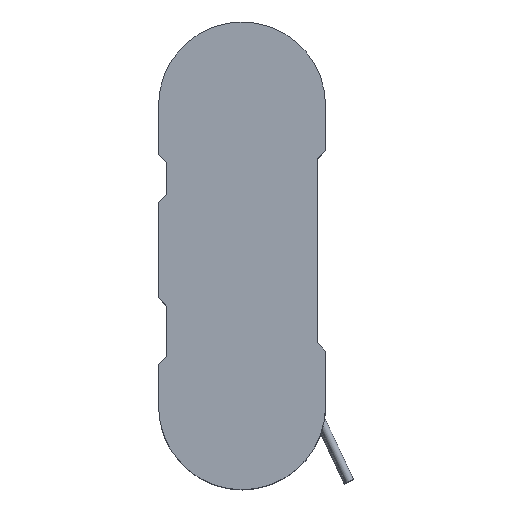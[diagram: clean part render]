
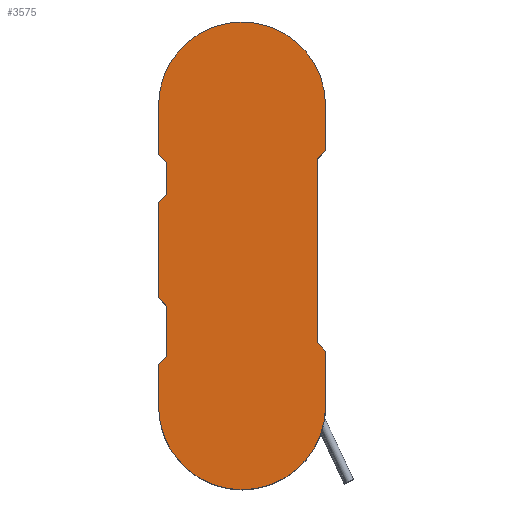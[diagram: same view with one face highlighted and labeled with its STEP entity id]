
A CAD part, top view. The second image highlights one B-rep face of the part: STEP entity #3575.
In plain terms, the highlighted planar face has unit normal (0, 0, 1).
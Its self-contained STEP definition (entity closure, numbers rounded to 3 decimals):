
#5 = DIRECTION ( 'NONE',  ( 1., 0., 0. ) ) ;
#17 = CARTESIAN_POINT ( 'NONE',  ( -2.571, 13.736, 4. ) ) ;
#33 = VECTOR ( 'NONE', #1606, 1000. ) ;
#72 = FACE_OUTER_BOUND ( 'NONE', #113, .T. ) ;
#98 = CARTESIAN_POINT ( 'NONE',  ( -2.571, -4.264, 4. ) ) ;
#113 = EDGE_LOOP ( 'NONE', ( #1912, #1564, #224, #1101, #1674, #2229, #2657, #1461, #2340, #290, #3268, #3146, #3173, #2575, #2688, #3679 ) ) ;
#139 = EDGE_CURVE ( 'NONE', #2565, #1363, #863, .T. ) ;
#141 = VECTOR ( 'NONE', #3321, 1000. ) ;
#155 = DIRECTION ( 'NONE',  ( -1., 0., 0. ) ) ;
#164 = CARTESIAN_POINT ( 'NONE',  ( 2.429, -4.264, 4. ) ) ;
#177 = LINE ( 'NONE', #1335, #33 ) ;
#224 = ORIENTED_EDGE ( 'NONE', *, *, #2208, .T. ) ;
#251 = CARTESIAN_POINT ( 'NONE',  ( -2.571, -4.264, 4. ) ) ;
#290 = ORIENTED_EDGE ( 'NONE', *, *, #1909, .T. ) ;
#375 = AXIS2_PLACEMENT_3D ( 'NONE', #2278, #2594, #5 ) ;
#380 = VERTEX_POINT ( 'NONE', #3603 ) ;
#460 = LINE ( 'NONE', #1434, #1656 ) ;
#499 = VECTOR ( 'NONE', #1313, 1000. ) ;
#501 = VECTOR ( 'NONE', #2459, 1000. ) ;
#517 = CARTESIAN_POINT ( 'NONE',  ( 7.429, 11.036, 4. ) ) ;
#719 = VECTOR ( 'NONE', #819, 1000. ) ;
#771 = VECTOR ( 'NONE', #2116, 1000. ) ;
#811 = CARTESIAN_POINT ( 'NONE',  ( -2.571, 7.936, 4. ) ) ;
#819 = DIRECTION ( 'NONE',  ( 0., -1., 0. ) ) ;
#842 = VERTEX_POINT ( 'NONE', #1963 ) ;
#860 = PLANE ( 'NONE',  #3244 ) ;
#863 = LINE ( 'NONE', #3300, #771 ) ;
#875 = EDGE_CURVE ( 'NONE', #842, #1061, #3058, .T. ) ;
#878 = CARTESIAN_POINT ( 'NONE',  ( 6.929, -0.464, 4. ) ) ;
#889 = LINE ( 'NONE', #2471, #499 ) ;
#893 = LINE ( 'NONE', #3310, #141 ) ;
#911 = CARTESIAN_POINT ( 'NONE',  ( -2.071, 0., 4. ) ) ;
#930 = DIRECTION ( 'NONE',  ( 0., -1., 0. ) ) ;
#933 = EDGE_CURVE ( 'NONE', #1281, #1363, #460, .T. ) ;
#992 = CARTESIAN_POINT ( 'NONE',  ( 7.429, 13.736, 4. ) ) ;
#1053 = EDGE_CURVE ( 'NONE', #380, #2144, #893, .T. ) ;
#1061 = VERTEX_POINT ( 'NONE', #98 ) ;
#1079 = VECTOR ( 'NONE', #2481, 1000. ) ;
#1083 = VECTOR ( 'NONE', #3201, 1000. ) ;
#1086 = DIRECTION ( 'NONE',  ( 0., 0., -1. ) ) ;
#1101 = ORIENTED_EDGE ( 'NONE', *, *, #139, .T. ) ;
#1114 = VERTEX_POINT ( 'NONE', #1257 ) ;
#1170 = DIRECTION ( 'NONE',  ( -0.707, -0.707, 0. ) ) ;
#1177 = CARTESIAN_POINT ( 'NONE',  ( 7.429, 11.036, 4. ) ) ;
#1214 = EDGE_CURVE ( 'NONE', #3242, #380, #889, .T. ) ;
#1230 = DIRECTION ( 'NONE',  ( 0.707, 0.707, 0. ) ) ;
#1257 = CARTESIAN_POINT ( 'NONE',  ( 7.429, -0.964, 4. ) ) ;
#1281 = VERTEX_POINT ( 'NONE', #1381 ) ;
#1313 = DIRECTION ( 'NONE',  ( 0., -1., 0. ) ) ;
#1325 = CARTESIAN_POINT ( 'NONE',  ( 7.429, -4.264, 4. ) ) ;
#1335 = CARTESIAN_POINT ( 'NONE',  ( -2.071, 1.736, 4. ) ) ;
#1363 = VERTEX_POINT ( 'NONE', #3430 ) ;
#1381 = CARTESIAN_POINT ( 'NONE',  ( -2.071, 1.736, 4. ) ) ;
#1388 = EDGE_CURVE ( 'NONE', #3027, #3242, #2026, .T. ) ;
#1417 = VECTOR ( 'NONE', #3367, 1000. ) ;
#1430 = CARTESIAN_POINT ( 'NONE',  ( -2.071, -1.264, 4. ) ) ;
#1434 = CARTESIAN_POINT ( 'NONE',  ( -2.571, 2.236, 4. ) ) ;
#1461 = ORIENTED_EDGE ( 'NONE', *, *, #875, .T. ) ;
#1536 = CARTESIAN_POINT ( 'NONE',  ( 7.429, -0.964, 4. ) ) ;
#1564 = ORIENTED_EDGE ( 'NONE', *, *, #3409, .T. ) ;
#1570 = CARTESIAN_POINT ( 'NONE',  ( 7.429, -4.264, 4. ) ) ;
#1581 = CARTESIAN_POINT ( 'NONE',  ( 6.929, 10.536, 4. ) ) ;
#1593 = EDGE_CURVE ( 'NONE', #2217, #1281, #177, .T. ) ;
#1606 = DIRECTION ( 'NONE',  ( 0., 1., 0. ) ) ;
#1656 = VECTOR ( 'NONE', #3264, 1000. ) ;
#1674 = ORIENTED_EDGE ( 'NONE', *, *, #933, .F. ) ;
#1717 = VERTEX_POINT ( 'NONE', #517 ) ;
#1726 = DIRECTION ( 'NONE',  ( -1., 0., 0. ) ) ;
#1743 = VECTOR ( 'NONE', #930, 1000. ) ;
#1826 = EDGE_CURVE ( 'NONE', #1717, #2305, #1836, .T. ) ;
#1836 = LINE ( 'NONE', #1177, #1083 ) ;
#1855 = VERTEX_POINT ( 'NONE', #878 ) ;
#1909 = EDGE_CURVE ( 'NONE', #2509, #1114, #1947, .T. ) ;
#1912 = ORIENTED_EDGE ( 'NONE', *, *, #1053, .T. ) ;
#1947 = LINE ( 'NONE', #3292, #3548 ) ;
#1963 = CARTESIAN_POINT ( 'NONE',  ( -2.571, -1.764, 4. ) ) ;
#1979 = LINE ( 'NONE', #1570, #1079 ) ;
#1984 = EDGE_CURVE ( 'NONE', #1114, #1855, #3052, .T. ) ;
#2016 = LINE ( 'NONE', #2708, #2527 ) ;
#2024 = VERTEX_POINT ( 'NONE', #2143 ) ;
#2026 = CIRCLE ( 'NONE', #375, 5. ) ;
#2116 = DIRECTION ( 'NONE',  ( 0., -1., 0. ) ) ;
#2143 = CARTESIAN_POINT ( 'NONE',  ( -2.071, 8.436, 4. ) ) ;
#2144 = VERTEX_POINT ( 'NONE', #3745 ) ;
#2208 = EDGE_CURVE ( 'NONE', #2024, #2565, #2997, .T. ) ;
#2217 = VERTEX_POINT ( 'NONE', #1430 ) ;
#2229 = ORIENTED_EDGE ( 'NONE', *, *, #1593, .F. ) ;
#2278 = CARTESIAN_POINT ( 'NONE',  ( 2.429, 13.736, 4. ) ) ;
#2305 = VERTEX_POINT ( 'NONE', #3580 ) ;
#2330 = CIRCLE ( 'NONE', #2687, 5. ) ;
#2340 = ORIENTED_EDGE ( 'NONE', *, *, #3403, .T. ) ;
#2459 = DIRECTION ( 'NONE',  ( -0.707, 0.707, 0. ) ) ;
#2471 = CARTESIAN_POINT ( 'NONE',  ( -2.571, -4.264, 4. ) ) ;
#2481 = DIRECTION ( 'NONE',  ( 0., 1., 0. ) ) ;
#2509 = VERTEX_POINT ( 'NONE', #1325 ) ;
#2527 = VECTOR ( 'NONE', #1230, 1000. ) ;
#2565 = VERTEX_POINT ( 'NONE', #811 ) ;
#2575 = ORIENTED_EDGE ( 'NONE', *, *, #3019, .T. ) ;
#2594 = DIRECTION ( 'NONE',  ( 0., 0., 1. ) ) ;
#2657 = ORIENTED_EDGE ( 'NONE', *, *, #3294, .F. ) ;
#2662 = DIRECTION ( 'NONE',  ( 0., 1., 0. ) ) ;
#2687 = AXIS2_PLACEMENT_3D ( 'NONE', #164, #3318, #155 ) ;
#2688 = ORIENTED_EDGE ( 'NONE', *, *, #1388, .T. ) ;
#2708 = CARTESIAN_POINT ( 'NONE',  ( -2.071, -1.264, 4. ) ) ;
#2849 = EDGE_CURVE ( 'NONE', #2305, #1855, #3724, .T. ) ;
#2997 = LINE ( 'NONE', #3218, #3775 ) ;
#3019 = EDGE_CURVE ( 'NONE', #1717, #3027, #1979, .T. ) ;
#3027 = VERTEX_POINT ( 'NONE', #992 ) ;
#3052 = LINE ( 'NONE', #1536, #501 ) ;
#3058 = LINE ( 'NONE', #251, #719 ) ;
#3082 = CARTESIAN_POINT ( 'NONE',  ( 2.429, -4.264, 4. ) ) ;
#3146 = ORIENTED_EDGE ( 'NONE', *, *, #2849, .F. ) ;
#3173 = ORIENTED_EDGE ( 'NONE', *, *, #1826, .F. ) ;
#3201 = DIRECTION ( 'NONE',  ( -0.707, -0.707, 0. ) ) ;
#3218 = CARTESIAN_POINT ( 'NONE',  ( -2.071, 8.436, 4. ) ) ;
#3242 = VERTEX_POINT ( 'NONE', #17 ) ;
#3244 = AXIS2_PLACEMENT_3D ( 'NONE', #3082, #1086, #1726 ) ;
#3264 = DIRECTION ( 'NONE',  ( -0.707, 0.707, 0. ) ) ;
#3268 = ORIENTED_EDGE ( 'NONE', *, *, #1984, .T. ) ;
#3292 = CARTESIAN_POINT ( 'NONE',  ( 7.429, -4.264, 4. ) ) ;
#3294 = EDGE_CURVE ( 'NONE', #842, #2217, #2016, .T. ) ;
#3300 = CARTESIAN_POINT ( 'NONE',  ( -2.571, -4.264, 4. ) ) ;
#3310 = CARTESIAN_POINT ( 'NONE',  ( -2.571, 10.836, 4. ) ) ;
#3318 = DIRECTION ( 'NONE',  ( 0., 0., 1. ) ) ;
#3321 = DIRECTION ( 'NONE',  ( 0.707, -0.707, 0. ) ) ;
#3367 = DIRECTION ( 'NONE',  ( 0., -1., 0. ) ) ;
#3403 = EDGE_CURVE ( 'NONE', #1061, #2509, #2330, .T. ) ;
#3409 = EDGE_CURVE ( 'NONE', #2144, #2024, #3422, .T. ) ;
#3422 = LINE ( 'NONE', #911, #1417 ) ;
#3430 = CARTESIAN_POINT ( 'NONE',  ( -2.571, 2.236, 4. ) ) ;
#3548 = VECTOR ( 'NONE', #2662, 1000. ) ;
#3575 = ADVANCED_FACE ( 'NONE', ( #72 ), #860, .F. ) ;
#3580 = CARTESIAN_POINT ( 'NONE',  ( 6.929, 10.536, 4. ) ) ;
#3603 = CARTESIAN_POINT ( 'NONE',  ( -2.571, 10.836, 4. ) ) ;
#3679 = ORIENTED_EDGE ( 'NONE', *, *, #1214, .T. ) ;
#3724 = LINE ( 'NONE', #1581, #1743 ) ;
#3745 = CARTESIAN_POINT ( 'NONE',  ( -2.071, 10.336, 4. ) ) ;
#3775 = VECTOR ( 'NONE', #1170, 1000. ) ;
